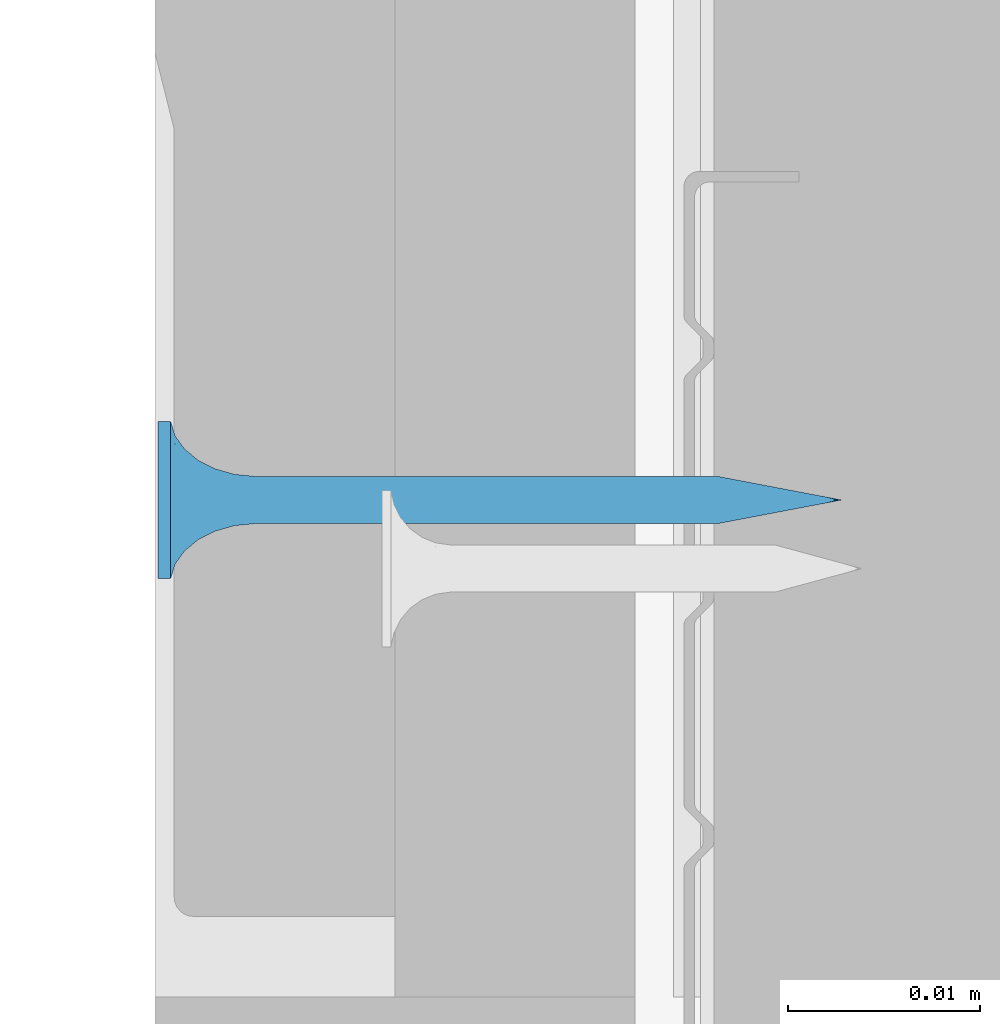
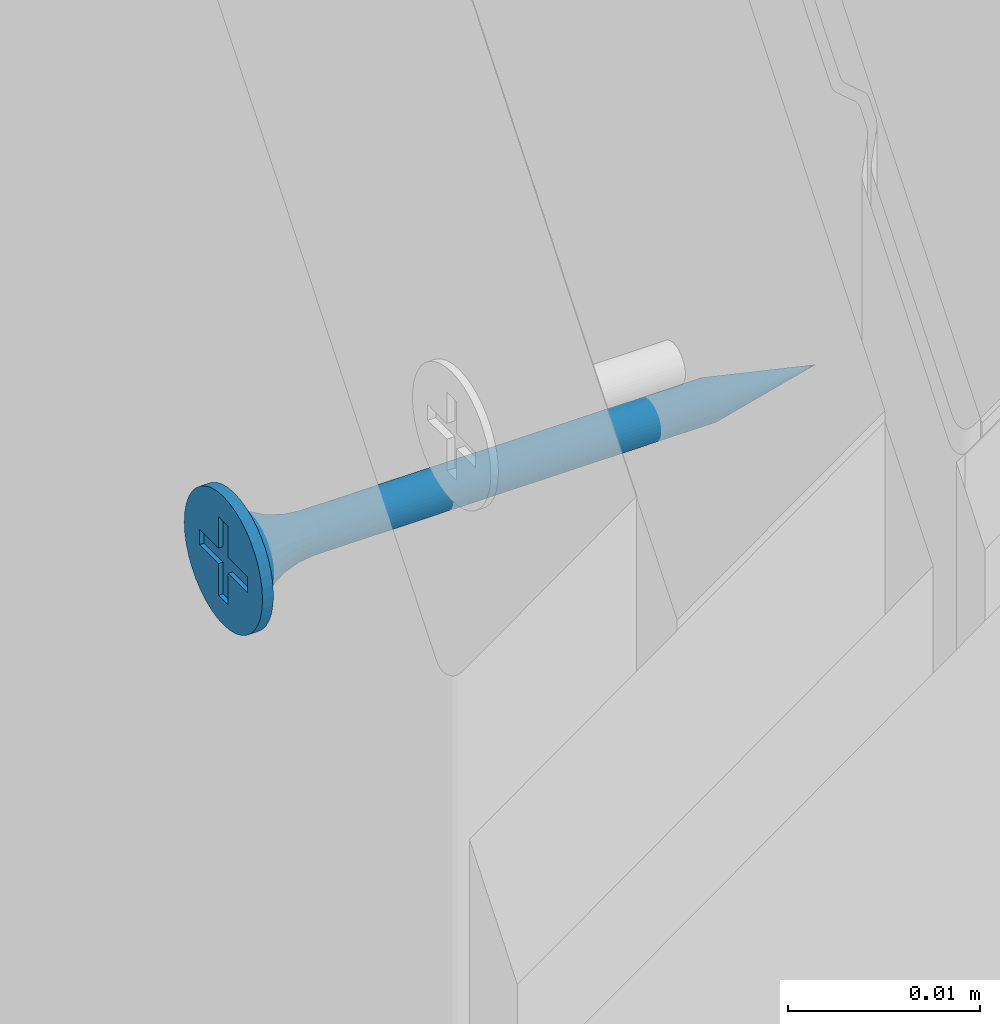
# One storey, part 61 of 92: 1 wall.
"""IFC2X3 building model written with IfcOpenShell, lengths in millimetres."""

import ifcopenshell
import ifcopenshell.guid

model = None  # the IFC model being written
_history = None  # IfcOwnerHistory: only IFC2X3 demands one
_inside = {}  # id of a spatial element -> (the spatial element, [elements in it])
_under = {}  # id of a project, library or spatial element -> (it, [spatial elements below it])
_declared = {}  # id of a project -> (the project, [libraries it declares])
_typed = {}  # id of a type object -> (the type object, [elements of that type])
_made_of = {}  # id of a material, layer set ... -> (it, [elements and type objects made of it])


def new_model(schema):
    """Start an empty IFC model of exactly this schema.

    Asked for "IFC4X3", IfcOpenShell would pick the latest addendum, in which some entities
    have other attributes; the version numbers below select the first issue.
    IFC2X3 requires an IfcOwnerHistory on every rooted entity: one is made here for all.
    """
    global model, _history
    if schema == "IFC4X3":
        model = ifcopenshell.file(schema_version=(4, 3, 0, 0))
    else:
        model = ifcopenshell.file(schema=schema)
    _inside.clear()
    _under.clear()
    _declared.clear()
    _typed.clear()
    _made_of.clear()
    _history = None
    if model.schema == "IFC2X3":
        org = make("IfcOrganization", Name="unknown")
        user = make(
            "IfcPersonAndOrganization",
            ThePerson=make("IfcPerson", FamilyName="unknown"),
            TheOrganization=org,
        )
        app = make(
            "IfcApplication",
            ApplicationDeveloper=org,
            Version="unknown",
            ApplicationFullName="unknown",
            ApplicationIdentifier="unknown",
        )
        _history = make(
            "IfcOwnerHistory",
            OwningUser=user,
            OwningApplication=app,
            ChangeAction="ADDED",
            CreationDate=0,
        )
    return model


def make(cls, **values):
    """One entity of the class cls with the attributes given. An attribute that is None is left unset."""
    return model.create_entity(
        cls, **{name: value for name, value in values.items() if value is not None}
    )


def rooted(cls, **values):
    """An entity with a GlobalId (a new one), such as an element, a storey or a relation."""
    return make(cls, GlobalId=ifcopenshell.guid.new(), OwnerHistory=_history, **values)


def si_unit(unit_type, name, prefix=None):
    """IfcSIUnit, for example si_unit("LENGTHUNIT", "METRE", prefix="MILLI")."""
    return make("IfcSIUnit", UnitType=unit_type, Prefix=prefix, Name=name)


def assignment(units):
    """IfcUnitAssignment: the units of a project."""
    return None if units is None else make("IfcUnitAssignment", Units=units)


def point(xyz):
    """IfcCartesianPoint."""
    return None if xyz is None else make("IfcCartesianPoint", Coordinates=xyz)


def direction(xyz):
    """IfcDirection."""
    return None if xyz is None else make("IfcDirection", DirectionRatios=xyz)


def frame(location, z_axis=None, x_axis=None):
    """IfcAxis2Placement3D, a coordinate frame: its origin and axes. An axis left out is left unset."""
    return make(
        "IfcAxis2Placement3D",
        Location=point(location),
        Axis=direction(z_axis),
        RefDirection=direction(x_axis),
    )


def origin_with_axes():
    """The frame at (0, 0, 0) with the z axis (0, 0, 1) and the x axis (1, 0, 0) written out."""
    return frame((0.0, 0.0, 0.0), z_axis=(0.0, 0.0, 1.0), x_axis=(1.0, 0.0, 0.0))


def place(relative_to, where):
    """IfcLocalPlacement: puts the frame where relative to a parent placement (None: the world)."""
    return make(
        "IfcLocalPlacement", PlacementRelTo=relative_to, RelativePlacement=where
    )


def context(
    kind, dimensions, precision=None, world=None, true_north=None, identifier=None
):
    """IfcGeometricRepresentationContext, for example the 3D "Model" context."""
    return make(
        "IfcGeometricRepresentationContext",
        ContextIdentifier=identifier,
        ContextType=kind,
        CoordinateSpaceDimension=dimensions,
        Precision=precision,
        WorldCoordinateSystem=world,
        TrueNorth=true_north,
    )


def subcontext(parent, identifier, kind, view, scale=None):
    """IfcGeometricRepresentationSubContext, for example "Body" below "Model"."""
    return make(
        "IfcGeometricRepresentationSubContext",
        ContextIdentifier=identifier,
        ContextType=kind,
        ParentContext=parent,
        TargetScale=scale,
        TargetView=view,
    )


def project(units=None, contexts=None):
    """IfcProject with its units and contexts."""
    return rooted(
        "IfcProject",
        Name="project",
        RepresentationContexts=contexts,
        UnitsInContext=assignment(units),
    )


def spatial(cls, under=None, at=None, **own):
    """A site, building, storey or space (cls), placed at a placement, below another one or the project."""
    s = rooted(cls, ObjectPlacement=at, **own)
    if under is not None:
        _under.setdefault(under.id(), (under, []))[1].append(s)
    return s


def faces_of(points, faces, orient=None, outer=None):
    """IfcFace entities. A face is a list of loops; a loop is a list of indices into points, from 0.

    orient and outer hold one flag for each loop. By default every Orientation is true, the
    first loop of a face is its IfcFaceOuterBound and the others are IfcFaceBound.
    """
    made = []
    for i, loops in enumerate(faces):
        bounds = []
        for j, loop in enumerate(loops):
            is_outer = j == 0 if outer is None else outer[i][j]
            bounds.append(
                make(
                    "IfcFaceOuterBound" if is_outer else "IfcFaceBound",
                    Bound=make("IfcPolyLoop", Polygon=[points[k] for k in loop]),
                    Orientation=True if orient is None else orient[i][j],
                )
            )
        made.append(make("IfcFace", Bounds=bounds))
    return made


def faceted_brep(points, faces, orient=None, outer=None, voids=None):
    """IfcFacetedBrep: a solid bounded by flat faces; with voids (closed shells), ...WithVoids."""
    shared = [point(p) for p in points]
    hull = make("IfcClosedShell", CfsFaces=faces_of(shared, faces, orient, outer))
    if voids is None:
        return make("IfcFacetedBrep", Outer=hull)
    return make(
        "IfcFacetedBrepWithVoids",
        Outer=hull,
        Voids=[
            make(cls, CfsFaces=faces_of(shared, fs, o, b)) for cls, fs, o, b in voids
        ],
    )


def shape(context_of_items, identifier, shape_type, items):
    """IfcShapeRepresentation: the items that make up one representation, for example the "Body"."""
    return make(
        "IfcShapeRepresentation",
        ContextOfItems=context_of_items,
        RepresentationIdentifier=identifier,
        RepresentationType=shape_type,
        Items=items,
    )


def material(Name=None, Category=None):
    """IfcMaterial."""
    return make("IfcMaterial", Name=Name, Category=Category)


def made_of(thing, what):
    """Note that an element or type object is made of a material, layer set ...; save() writes the relation."""
    if what is not None:
        _made_of.setdefault(what.id(), (what, []))[1].append(thing)
    return thing


def type_object(cls, material=None, **own):
    """A type object (cls), such as IfcWallType, which elements share."""
    return made_of(rooted(cls, **own), material)


def element(
    cls,
    number,
    at=None,
    inside=None,
    cuts=None,
    type_object=None,
    material=None,
    context=None,
    identifier="Body",
    shape_type=None,
    held_by="IfcProductDefinitionShape",
    body=None,
    shapes=None,
    **own,
):
    """One element of the class cls, such as IfcWall. Its Tag is "e" and its number.

    at: its placement. inside: the storey or other place that contains it. cuts: it is an
    opening in that element (IfcRelVoidsElement). A single representation is given by context,
    identifier, shape_type and body (its items); several are given by shapes. held_by: the class
    of the entity that holds the representations. save() writes the other relations.
    """
    e = rooted(cls, Tag="e%d" % number, ObjectPlacement=at, **own)
    if body is not None:
        shapes = [shape(context, identifier, shape_type, body)]
    if shapes is not None:
        e.Representation = make(held_by, Representations=shapes)
    if inside is not None:
        _inside.setdefault(inside.id(), (inside, []))[1].append(e)
    if cuts is not None:
        rooted(
            "IfcRelVoidsElement", RelatingBuildingElement=cuts, RelatedOpeningElement=e
        )
    if type_object is not None:
        _typed.setdefault(type_object.id(), (type_object, []))[1].append(e)
    return made_of(e, material)


def aggregate(whole, parts):
    """IfcRelAggregates: a whole, such as a stair, and the parts it consists of."""
    return rooted("IfcRelAggregates", RelatingObject=whole, RelatedObjects=parts)


def save(model, path):
    """Write the relations noted so far, then the file.

    IfcRelAggregates (storeys below a building ...), IfcRelContainedInSpatialStructure (elements
    in a storey), IfcRelDefinesByType, IfcRelAssociatesMaterial and IfcRelDeclares: one each for
    every whole, place, type object, material and project.
    """
    for whole, parts in _under.values():
        aggregate(whole, parts)
    for where, things in _inside.values():
        rooted(
            "IfcRelContainedInSpatialStructure",
            RelatedElements=things,
            RelatingStructure=where,
        )
    for kind, things in _typed.values():
        rooted("IfcRelDefinesByType", RelatedObjects=things, RelatingType=kind)
    for what, things in _made_of.values():
        rooted("IfcRelAssociatesMaterial", RelatedObjects=things, RelatingMaterial=what)
    for by, libraries in _declared.values():
        rooted("IfcRelDeclares", RelatingContext=by, RelatedDefinitions=libraries)
    model.write(path)


model = new_model("IFC2X3")

# Units and contexts
model_context = context("Model", 3, world=origin_with_axes())
body_context = subcontext(model_context, "Body", "Model", "MODEL_VIEW")
ifc_project = project(units=[si_unit("LENGTHUNIT", "METRE", prefix="MILLI"), si_unit("AREAUNIT", "SQUARE_METRE"), si_unit("VOLUMEUNIT", "CUBIC_METRE")], contexts=[model_context])

# Site, building, storey
site_placement = place(None, origin_with_axes())
site = spatial("IfcSite", under=ifc_project, at=site_placement, Name="Default Site", CompositionType="ELEMENT")
building_placement = place(site_placement, origin_with_axes())
building = spatial("IfcBuilding", under=site, at=building_placement, Name="Default Building", CompositionType="ELEMENT")
storey_placement = place(building_placement, origin_with_axes())
storey = spatial("IfcBuildingStorey", under=building, at=storey_placement, Name="Default Building Storey", CompositionType="ELEMENT", Elevation=0.0)

# Wall
ifc_material = material(Name="Undefined2")
wall_type = type_object("IfcWallType", Name="Wkręt RIGIPS TN 35#37", PredefinedType="NOTDEFINED")
wall_placement = place(storey_placement, frame((4833.413128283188, 6.443031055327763, 1136.1937980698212), z_axis=(0.0, 0.0, 1.0), x_axis=(6.938893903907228e-17, -1.0, 0.0)))
element("IfcWall", 1, at=wall_placement, inside=storey, type_object=wall_type, material=ifc_material, Name="Wkręt RIGIPS TN 35", context=body_context, shape_type="Brep", body=[
    faceted_brep([(-141.48753293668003, -4832.598052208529, 555.1619773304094), (-141.48753293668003, -4833.259714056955, 555.1619773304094), (-141.5377465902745, -4833.259714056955, 555.8000000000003), (-141.5377465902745, -4832.598052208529, 555.8000000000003), (-141.33812900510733, -4832.598052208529, 554.539664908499), (-141.33812900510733, -4833.259714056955, 554.539664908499), (-141.09321328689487, -4832.598052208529, 553.948386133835), (-141.09321328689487, -4833.259714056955, 553.948386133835), (-140.75881656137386, -4832.598052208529, 553.4027002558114), (-140.75881656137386, -4833.259714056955, 553.4027002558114), (-140.34317265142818, -4833.259714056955, 552.9160436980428), (-140.45417279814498, -4832.598052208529, 553.031490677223), (-139.8565160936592, -4833.259714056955, 552.5003997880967), (-140.1080097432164, -4832.598052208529, 552.6986613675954), (-139.72512626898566, -4832.598052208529, 552.4088260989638), (-139.31083021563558, -4833.259714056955, 552.1660030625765), (-139.31083021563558, -4832.598052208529, 552.1660030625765), (-138.71955144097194, -4833.259714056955, 551.9210873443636), (-138.87086516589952, -4832.598052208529, 551.9735585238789), (-138.41133029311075, -4832.598052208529, 551.8341602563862), (-138.0972390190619, -4833.259714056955, 551.7716834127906), (-137.9385961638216, -4832.598052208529, 551.74974052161), (-137.45921634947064, -4833.259714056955, 551.7214697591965), (-137.45921634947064, -4832.598052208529, 551.7214697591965), (-136.82119367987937, -4832.598052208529, 551.7716834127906), (-136.82119367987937, -4833.259714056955, 551.7716834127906), (-136.19888125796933, -4832.598052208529, 551.9210873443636), (-136.19888125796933, -4833.259714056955, 551.9210873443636), (-135.6076024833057, -4832.598052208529, 552.1660030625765), (-135.6076024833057, -4833.259714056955, 552.1660030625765), (-135.06191660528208, -4832.598052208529, 552.5003997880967), (-135.06191660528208, -4833.259714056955, 552.5003997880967), (-134.57526004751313, -4832.598052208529, 552.9160436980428), (-134.57526004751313, -4833.259714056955, 552.9160436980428), (-134.1596161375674, -4832.598052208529, 553.4027002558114), (-134.1596161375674, -4833.259714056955, 553.4027002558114), (-133.8252194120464, -4832.598052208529, 553.948386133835), (-133.8252194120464, -4833.259714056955, 553.948386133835), (-133.58030369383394, -4832.598052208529, 554.539664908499), (-133.58030369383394, -4833.259714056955, 554.539664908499), (-133.3806861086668, -4833.259714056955, 555.8000000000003), (-133.3806861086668, -4832.598052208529, 555.8000000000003), (-133.43089976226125, -4832.598052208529, 556.4380226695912), (-133.43089976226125, -4833.259714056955, 556.4380226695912), (-133.43089976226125, -4833.259714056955, 555.1619773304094), (-133.43089976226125, -4832.598052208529, 555.1619773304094), (-133.58030369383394, -4832.598052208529, 557.0603350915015), (-133.58030369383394, -4833.259714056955, 557.0603350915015), (-133.8252194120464, -4832.598052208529, 557.6516138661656), (-133.8252194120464, -4833.259714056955, 557.6516138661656), (-134.1596161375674, -4832.598052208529, 558.1972997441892), (-134.1596161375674, -4833.259714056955, 558.1972997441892), (-134.57526004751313, -4832.598052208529, 558.6839563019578), (-134.57526004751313, -4833.259714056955, 558.6839563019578), (-135.06191660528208, -4832.598052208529, 559.0996002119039), (-135.06191660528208, -4833.259714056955, 559.0996002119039), (-135.6076024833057, -4832.598052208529, 559.4339969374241), (-135.6076024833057, -4833.259714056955, 559.4339969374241), (-136.19888125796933, -4832.598052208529, 559.678912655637), (-136.19888125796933, -4833.259714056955, 559.678912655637), (-136.82119367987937, -4832.598052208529, 559.82831658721), (-136.82119367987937, -4833.259714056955, 559.82831658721), (-137.45921634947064, -4832.598052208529, 559.8785302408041), (-137.45921634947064, -4833.259714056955, 559.8785302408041), (-138.0972390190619, -4832.598052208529, 559.82831658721), (-138.0972390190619, -4833.259714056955, 559.82831658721), (-138.71955144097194, -4832.598052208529, 559.678912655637), (-138.71955144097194, -4833.259714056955, 559.678912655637), (-139.31083021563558, -4832.598052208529, 559.4339969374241), (-139.31083021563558, -4833.259714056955, 559.4339969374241), (-139.8565160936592, -4832.598052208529, 559.0996002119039), (-139.8565160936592, -4833.259714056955, 559.0996002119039), (-140.34317265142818, -4832.598052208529, 558.6839563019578), (-140.34317265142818, -4833.259714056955, 558.6839563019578), (-140.75881656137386, -4832.598052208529, 558.1972997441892), (-140.75881656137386, -4833.259714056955, 558.1972997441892), (-141.09321328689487, -4832.598052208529, 557.6516138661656), (-141.09321328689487, -4833.259714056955, 557.6516138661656), (-141.33812900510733, -4832.598052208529, 557.0603350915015), (-141.33812900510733, -4833.259714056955, 557.0603350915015), (-141.48753293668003, -4832.598052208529, 556.4380226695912), (-141.48753293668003, -4833.259714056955, 556.4380226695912), (-137.65172779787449, -4828.206294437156, 554.5845305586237), (-137.45921634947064, -4828.206294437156, 554.5693795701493), (-137.8060615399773, -4829.281368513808, 554.505556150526), (-137.45921634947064, -4829.281368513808, 554.4598930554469), (-137.83949898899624, -4828.206294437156, 554.6296104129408), (-138.12926982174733, -4829.281368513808, 554.6394333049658), (-138.01790634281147, -4828.206294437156, 554.7035091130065), (-138.1825568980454, -4828.206294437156, 554.8044072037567), (-138.40681506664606, -4829.281368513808, 554.8524012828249), (-138.3293964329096, -4828.206294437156, 554.9298199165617), (-138.45480914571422, -4828.206294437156, 555.0766594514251), (-138.6197830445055, -4829.281368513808, 555.1299465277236), (-138.5557072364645, -4828.206294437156, 555.2413100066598), (-138.753660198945, -4829.281368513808, 555.453154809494), (-138.62960593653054, -4828.206294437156, 555.4197173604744), (-138.67468579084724, -4828.206294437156, 555.6074885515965), (-138.79932329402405, -4829.281368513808, 555.7999999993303), (-138.68983677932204, -4828.206294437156, 555.8000000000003), (-138.67468579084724, -4828.206294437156, 555.9925114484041), (-138.753660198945, -4829.281368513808, 556.1468451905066), (-138.62960593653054, -4828.206294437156, 556.1802826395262), (-138.6197830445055, -4829.281368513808, 556.470053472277), (-138.5557072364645, -4828.206294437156, 556.3586899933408), (-138.45480914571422, -4828.206294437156, 556.5233405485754), (-138.40681506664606, -4829.281368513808, 556.7475987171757), (-138.3293964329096, -4828.206294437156, 556.6701800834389), (-138.1825568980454, -4828.206294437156, 556.7955927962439), (-138.12926982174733, -4829.281368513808, 556.9605666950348), (-138.01790634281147, -4828.206294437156, 556.8964908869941), (-137.8060615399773, -4829.281368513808, 557.0944438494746), (-137.83949898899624, -4828.206294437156, 556.9703895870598), (-137.65172779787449, -4828.206294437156, 557.0154694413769), (-137.45921634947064, -4829.281368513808, 557.1401069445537), (-137.45921634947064, -4828.206294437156, 557.0306204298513), (-137.26670490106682, -4828.206294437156, 557.0154694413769), (-137.11237115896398, -4829.281368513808, 557.0944438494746), (-137.07893370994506, -4828.206294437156, 556.9703895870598), (-136.78916287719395, -4829.281368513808, 556.9605666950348), (-136.9005263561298, -4828.206294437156, 556.8964908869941), (-136.7358758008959, -4828.206294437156, 556.7955927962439), (-136.5116176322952, -4829.281368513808, 556.7475987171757), (-136.58903626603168, -4828.206294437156, 556.6701800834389), (-136.46362355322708, -4828.206294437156, 556.5233405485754), (-136.2986496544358, -4829.281368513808, 556.470053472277), (-136.36272546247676, -4828.206294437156, 556.3586899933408), (-136.16477249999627, -4829.281368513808, 556.1468451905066), (-136.28882676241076, -4828.206294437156, 556.1802826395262), (-136.24374690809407, -4828.206294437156, 555.9925114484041), (-136.11910940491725, -4829.281368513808, 555.7999999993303), (-136.22859591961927, -4828.206294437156, 555.8000000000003), (-136.24374690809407, -4828.206294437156, 555.6074885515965), (-136.16477249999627, -4829.281368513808, 555.453154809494), (-136.28882676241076, -4828.206294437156, 555.4197173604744), (-136.2986496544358, -4829.281368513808, 555.1299465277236), (-136.36272546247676, -4828.206294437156, 555.2413100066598), (-136.46362355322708, -4828.206294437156, 555.0766594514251), (-136.5116176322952, -4829.281368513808, 554.8524012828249), (-136.58903626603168, -4828.206294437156, 554.9298199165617), (-136.7358758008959, -4828.206294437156, 554.8044072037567), (-136.78916287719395, -4829.281368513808, 554.6394333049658), (-136.9005263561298, -4828.206294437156, 554.7035091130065), (-137.11237115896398, -4829.281368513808, 554.505556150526), (-137.07893370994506, -4828.206294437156, 554.6296104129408), (-137.26670490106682, -4828.206294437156, 554.5845305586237), (-137.45921634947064, -4830.288222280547, 554.1737111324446), (-137.88013087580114, -4830.288222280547, 554.2291255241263), (-138.2723607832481, -4830.288222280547, 554.3915925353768), (-138.60917621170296, -4830.288222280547, 554.650040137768), (-138.8676238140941, -4830.288222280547, 554.9868555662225), (-139.03009082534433, -4830.288222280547, 555.3790854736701), (-139.08550521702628, -4830.288222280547, 555.7999999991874), (-139.03009082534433, -4830.288222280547, 556.2209145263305), (-138.8676238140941, -4830.288222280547, 556.6131444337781), (-138.60917621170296, -4830.288222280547, 556.9499598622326), (-138.2723607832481, -4830.288222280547, 557.2084074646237), (-137.88013087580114, -4830.288222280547, 557.3708744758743), (-137.45921634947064, -4830.288222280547, 557.426288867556), (-137.03830182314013, -4830.288222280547, 557.3708744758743), (-136.64607191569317, -4830.288222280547, 557.2084074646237), (-136.30925648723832, -4830.288222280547, 556.9499598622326), (-136.05080888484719, -4830.288222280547, 556.6131444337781), (-135.88834187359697, -4830.288222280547, 556.2209145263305), (-135.832927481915, -4830.288222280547, 555.7999999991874), (-135.88834187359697, -4830.288222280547, 555.3790854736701), (-136.05080888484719, -4830.288222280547, 554.9868555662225), (-136.30925648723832, -4830.288222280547, 554.650040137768), (-136.64607191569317, -4830.288222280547, 554.3915925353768), (-137.03830182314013, -4830.288222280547, 554.2291255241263), (-137.45921634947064, -4831.168773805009, 553.7273430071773), (-137.99565943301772, -4831.168773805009, 553.7979670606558), (-138.49554484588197, -4831.168773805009, 554.0050264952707), (-138.92480608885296, -4831.168773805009, 554.3344102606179), (-139.25418985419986, -4831.168773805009, 554.763671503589), (-139.46124928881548, -4831.168773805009, 555.2635569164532), (-139.53187334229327, -4831.168773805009, 555.799999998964), (-139.46124928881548, -4831.168773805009, 556.3364430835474), (-139.25418985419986, -4831.168773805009, 556.8363284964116), (-138.92480608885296, -4831.168773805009, 557.2655897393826), (-138.49554484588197, -4831.168773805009, 557.5949735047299), (-137.99565943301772, -4831.168773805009, 557.8020329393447), (-137.45921634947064, -4831.168773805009, 557.8726569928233), (-136.92277326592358, -4831.168773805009, 557.8020329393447), (-136.42288785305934, -4831.168773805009, 557.5949735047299), (-135.9936266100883, -4831.168773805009, 557.2655897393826), (-135.6642428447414, -4831.168773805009, 556.8363284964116), (-135.45718341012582, -4831.168773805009, 556.3364430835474), (-135.386559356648, -4831.168773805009, 555.799999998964), (-135.45718341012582, -4831.168773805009, 555.2635569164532), (-135.6642428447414, -4831.168773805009, 554.763671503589), (-135.9936266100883, -4831.168773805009, 554.3344102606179), (-136.42288785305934, -4831.168773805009, 554.0050264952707), (-136.92277326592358, -4831.168773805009, 553.7979670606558), (-137.45921634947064, -4831.872222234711, 553.1465392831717), (-138.14598252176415, -4831.872222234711, 553.2369539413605), (-138.78594670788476, -4831.872222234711, 553.5020355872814), (-139.33549641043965, -4831.872222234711, 553.9237199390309), (-139.75718076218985, -4831.872222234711, 554.4732696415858), (-140.02226240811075, -4831.872222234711, 555.1132338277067), (-140.11267706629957, -4831.872222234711, 555.7999999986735), (-140.02226240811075, -4831.872222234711, 556.4867661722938), (-139.75718076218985, -4831.872222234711, 557.1267303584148), (-139.33549641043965, -4831.872222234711, 557.6762800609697), (-138.78594670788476, -4831.872222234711, 558.0979644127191), (-138.14598252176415, -4831.872222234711, 558.3630460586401), (-137.45921634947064, -4831.872222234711, 558.4534607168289), (-136.77245017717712, -4831.872222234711, 558.3630460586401), (-136.13248599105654, -4831.872222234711, 558.0979644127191), (-135.58293628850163, -4831.872222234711, 557.6762800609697), (-135.16125193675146, -4831.872222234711, 557.1267303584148), (-134.89617029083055, -4831.872222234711, 556.4867661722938), (-134.8057556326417, -4831.872222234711, 555.7999999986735), (-134.89617029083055, -4831.872222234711, 555.1132338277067), (-135.16125193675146, -4831.872222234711, 554.4732696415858), (-135.58293628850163, -4831.872222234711, 553.9237199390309), (-136.13248599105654, -4831.872222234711, 553.5020355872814), (-136.77245017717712, -4831.872222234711, 553.2369539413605), (-137.45921634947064, -4832.357990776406, 552.4648055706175), (-138.3224281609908, -4832.357990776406, 552.5784495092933), (-139.12681356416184, -4832.357990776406, 552.9116369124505), (-139.8175549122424, -4832.357990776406, 553.4416614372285), (-140.34757943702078, -4832.357990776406, 554.1324027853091), (-140.680766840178, -4832.357990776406, 554.9367881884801), (-140.79441077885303, -4832.357990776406, 555.7999999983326), (-140.680766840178, -4832.357990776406, 556.6632118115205), (-140.34757943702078, -4832.357990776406, 557.4675972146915), (-139.8175549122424, -4832.357990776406, 558.1583385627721), (-139.12681356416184, -4832.357990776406, 558.6883630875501), (-138.3224281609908, -4832.357990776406, 559.0215504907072), (-137.45921634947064, -4832.357990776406, 559.1351944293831), (-136.5960045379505, -4832.357990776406, 559.0215504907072), (-135.79161913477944, -4832.357990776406, 558.6883630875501), (-135.10087778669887, -4832.357990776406, 558.1583385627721), (-134.5708532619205, -4832.357990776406, 557.4675972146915), (-134.23766585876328, -4832.357990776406, 556.6632118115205), (-134.12402192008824, -4832.357990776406, 555.7999999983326), (-134.23766585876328, -4832.357990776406, 554.9367881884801), (-134.5708532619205, -4832.357990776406, 554.1324027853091), (-135.10087778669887, -4832.357990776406, 553.4416614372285), (-135.79161913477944, -4832.357990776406, 552.9116369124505), (-136.5960045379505, -4832.357990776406, 552.5784495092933), (-138.67468579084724, -4804.0937578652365, 555.6074885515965), (-138.68983677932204, -4804.0937578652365, 555.8000000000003), (-138.62960593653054, -4804.0937578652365, 555.4197173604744), (-138.5557072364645, -4804.0937578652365, 555.2413100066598), (-138.45480914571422, -4804.0937578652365, 555.0766594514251), (-138.3293964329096, -4804.0937578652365, 554.9298199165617), (-138.1825568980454, -4804.0937578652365, 554.8044072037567), (-138.01790634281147, -4804.0937578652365, 554.7035091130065), (-137.83949898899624, -4804.0937578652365, 554.6296104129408), (-137.65172779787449, -4804.0937578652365, 554.5845305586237), (-137.45921634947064, -4804.0937578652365, 554.5693795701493), (-137.26670490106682, -4804.0937578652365, 554.5845305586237), (-137.07893370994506, -4804.0937578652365, 554.6296104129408), (-136.9005263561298, -4804.0937578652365, 554.7035091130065), (-136.7358758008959, -4804.0937578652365, 554.8044072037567), (-136.58903626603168, -4804.0937578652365, 554.9298199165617), (-136.46362355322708, -4804.0937578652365, 555.0766594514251), (-136.36272546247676, -4804.0937578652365, 555.2413100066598), (-136.28882676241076, -4804.0937578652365, 555.4197173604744), (-136.22859591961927, -4804.0937578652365, 555.8000000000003), (-136.24374690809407, -4804.0937578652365, 555.9925114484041), (-136.24374690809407, -4804.0937578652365, 555.6074885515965), (-136.28882676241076, -4804.0937578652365, 556.1802826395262), (-136.36272546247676, -4804.0937578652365, 556.3586899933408), (-136.46362355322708, -4804.0937578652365, 556.5233405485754), (-136.58903626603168, -4804.0937578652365, 556.6701800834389), (-136.7358758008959, -4804.0937578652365, 556.7955927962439), (-136.9005263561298, -4804.0937578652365, 556.8964908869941), (-137.07893370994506, -4804.0937578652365, 556.9703895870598), (-137.26670490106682, -4804.0937578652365, 557.0154694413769), (-137.45921634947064, -4804.0937578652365, 557.0306204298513), (-137.65172779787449, -4804.0937578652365, 557.0154694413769), (-137.83949898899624, -4804.0937578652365, 556.9703895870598), (-138.01790634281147, -4804.0937578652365, 556.8964908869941), (-138.1825568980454, -4804.0937578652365, 556.7955927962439), (-138.3293964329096, -4804.0937578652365, 556.6701800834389), (-138.45480914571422, -4804.0937578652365, 556.5233405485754), (-138.5557072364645, -4804.0937578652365, 556.3586899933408), (-138.62960593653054, -4804.0937578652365, 556.1802826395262), (-138.67468579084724, -4804.0937578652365, 555.9925114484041), (-137.45921634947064, -4797.627062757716, 555.8000000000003), (-139.95921629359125, -4833.259714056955, 555.2999999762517), (-139.95921629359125, -4833.259714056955, 556.3000000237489), (-137.95921637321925, -4833.259714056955, 556.3000000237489), (-137.95921637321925, -4833.259714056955, 558.2999999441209), (-136.95921632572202, -4833.259714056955, 558.2999999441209), (-136.95921632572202, -4833.259714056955, 556.3000000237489), (-134.95921640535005, -4833.259714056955, 556.3000000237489), (-134.95921640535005, -4833.259714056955, 555.2999999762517), (-136.95921632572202, -4833.259714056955, 555.2999999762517), (-136.95921632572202, -4833.259714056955, 553.3000000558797), (-137.95921637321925, -4833.259714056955, 553.3000000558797), (-137.95921637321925, -4833.259714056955, 555.2999999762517), (-136.95921632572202, -4832.988378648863, 558.2999999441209), (-137.95921637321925, -4832.988378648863, 558.2999999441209), (-137.95921637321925, -4832.988378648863, 556.3000000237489), (-139.95921629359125, -4832.988378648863, 556.3000000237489), (-139.95921629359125, -4832.988378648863, 555.2999999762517), (-137.95921637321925, -4832.988378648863, 555.2999999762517), (-137.95921637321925, -4832.988378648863, 553.3000000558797), (-136.95921632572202, -4832.988378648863, 553.3000000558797), (-136.95921632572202, -4832.988378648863, 555.2999999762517), (-134.95921640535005, -4832.988378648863, 555.2999999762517), (-134.95921640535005, -4832.988378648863, 556.3000000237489), (-136.95921632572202, -4832.988378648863, 556.3000000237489)], [[[0, 1, 2, 3]], [[1, 0, 4, 5]], [[5, 4, 6, 7]], [[8, 9, 7, 6]], [[8, 10, 9]], [[8, 11, 10]], [[12, 11, 13]], [[12, 10, 11]], [[13, 14, 12]], [[14, 15, 12]], [[14, 16, 15]], [[17, 16, 18]], [[17, 15, 16]], [[18, 19, 17]], [[20, 19, 21]], [[20, 17, 19]], [[21, 22, 20]], [[21, 23, 22]], [[24, 25, 22, 23]], [[25, 24, 26, 27]], [[27, 26, 28, 29]], [[30, 31, 29, 28]], [[31, 30, 32, 33]], [[34, 35, 33, 32]], [[35, 34, 36, 37]], [[37, 36, 38, 39]], [[40, 41, 42, 43]], [[44, 45, 41, 40]], [[45, 44, 39, 38]], [[43, 42, 46, 47]], [[47, 46, 48, 49]], [[50, 51, 49, 48]], [[51, 50, 52, 53]], [[54, 55, 53, 52]], [[55, 54, 56, 57]], [[57, 56, 58, 59]], [[60, 61, 59, 58]], [[61, 60, 62, 63]], [[64, 65, 63, 62]], [[65, 64, 66, 67]], [[67, 66, 68, 69]], [[70, 71, 69, 68]], [[71, 70, 72, 73]], [[74, 75, 73, 72]], [[75, 74, 76, 77]], [[77, 76, 78, 79]], [[80, 81, 79, 78]], [[81, 80, 3, 2]], [[82, 83, 84]], [[83, 85, 84]], [[84, 86, 82]], [[84, 87, 88, 86]], [[89, 88, 87]], [[87, 90, 89]], [[90, 91, 89]], [[92, 91, 93]], [[91, 90, 93]], [[93, 94, 92]], [[93, 95, 96, 94]], [[97, 96, 95]], [[95, 98, 97]], [[98, 99, 97]], [[100, 99, 101]], [[99, 98, 101]], [[101, 102, 100]], [[101, 103, 104, 102]], [[105, 104, 103]], [[103, 106, 105]], [[106, 107, 105]], [[108, 107, 109]], [[107, 106, 109]], [[109, 110, 108]], [[109, 111, 112, 110]], [[113, 112, 111]], [[111, 114, 113]], [[114, 115, 113]], [[116, 115, 117]], [[115, 114, 117]], [[117, 118, 116]], [[117, 119, 120, 118]], [[121, 120, 119]], [[119, 122, 121]], [[122, 123, 121]], [[124, 123, 125]], [[123, 122, 125]], [[125, 126, 124]], [[125, 127, 128, 126]], [[129, 128, 127]], [[127, 130, 129]], [[130, 131, 129]], [[132, 131, 133]], [[131, 130, 133]], [[133, 134, 132]], [[133, 135, 136, 134]], [[137, 136, 135]], [[135, 138, 137]], [[138, 139, 137]], [[140, 139, 141]], [[139, 138, 141]], [[141, 142, 140]], [[141, 143, 144, 142]], [[145, 144, 143]], [[143, 85, 145]], [[85, 83, 145]], [[146, 147, 84, 85]], [[84, 147, 148, 87]], [[87, 148, 149, 90]], [[90, 149, 150, 93]], [[93, 150, 151, 95]], [[95, 151, 152, 98]], [[98, 152, 153, 101]], [[101, 153, 154, 103]], [[103, 154, 155, 106]], [[106, 155, 156, 109]], [[109, 156, 157, 111]], [[111, 157, 158, 114]], [[114, 158, 159, 117]], [[117, 159, 160, 119]], [[119, 160, 161, 122]], [[122, 161, 162, 125]], [[125, 162, 163, 127]], [[127, 163, 164, 130]], [[130, 164, 165, 133]], [[133, 165, 166, 135]], [[135, 166, 167, 138]], [[138, 167, 168, 141]], [[141, 168, 169, 143]], [[143, 169, 146, 85]], [[170, 171, 147, 146]], [[147, 171, 172, 148]], [[148, 172, 173, 149]], [[149, 173, 174, 150]], [[150, 174, 175, 151]], [[151, 175, 176, 152]], [[152, 176, 177, 153]], [[153, 177, 178, 154]], [[154, 178, 179, 155]], [[155, 179, 180, 156]], [[156, 180, 181, 157]], [[157, 181, 182, 158]], [[158, 182, 183, 159]], [[159, 183, 184, 160]], [[160, 184, 185, 161]], [[161, 185, 186, 162]], [[162, 186, 187, 163]], [[163, 187, 188, 164]], [[164, 188, 189, 165]], [[165, 189, 190, 166]], [[166, 190, 191, 167]], [[167, 191, 192, 168]], [[168, 192, 193, 169]], [[169, 193, 170, 146]], [[194, 195, 171, 170]], [[171, 195, 196, 172]], [[172, 196, 197, 173]], [[173, 197, 198, 174]], [[174, 198, 199, 175]], [[175, 199, 200, 176]], [[176, 200, 201, 177]], [[177, 201, 202, 178]], [[178, 202, 203, 179]], [[179, 203, 204, 180]], [[180, 204, 205, 181]], [[181, 205, 206, 182]], [[182, 206, 207, 183]], [[183, 207, 208, 184]], [[184, 208, 209, 185]], [[185, 209, 210, 186]], [[186, 210, 211, 187]], [[187, 211, 212, 188]], [[188, 212, 213, 189]], [[189, 213, 214, 190]], [[190, 214, 215, 191]], [[191, 215, 216, 192]], [[192, 216, 217, 193]], [[193, 217, 194, 170]], [[21, 19, 218]], [[19, 219, 218]], [[218, 23, 21]], [[218, 219, 195, 194]], [[18, 16, 219]], [[16, 220, 219]], [[219, 19, 18]], [[195, 219, 220, 196]], [[13, 11, 221]], [[14, 13, 220]], [[13, 221, 220]], [[220, 16, 14]], [[196, 220, 221, 197]], [[8, 6, 222]], [[222, 221, 8]], [[221, 11, 8]], [[197, 221, 222, 198]], [[4, 223, 222, 6]], [[198, 222, 223, 199]], [[0, 3, 223]], [[3, 224, 223]], [[223, 4, 0]], [[199, 223, 224, 200]], [[80, 78, 225]], [[225, 224, 80]], [[224, 3, 80]], [[200, 224, 225, 201]], [[78, 76, 226, 225]], [[201, 225, 226, 202]], [[74, 72, 226]], [[72, 227, 226]], [[226, 76, 74]], [[202, 226, 227, 203]], [[70, 68, 228]], [[228, 227, 70]], [[227, 72, 70]], [[203, 227, 228, 204]], [[68, 66, 229, 228]], [[204, 228, 229, 205]], [[64, 62, 229]], [[62, 230, 229]], [[229, 66, 64]], [[205, 229, 230, 206]], [[60, 58, 231]], [[231, 230, 60]], [[230, 62, 60]], [[206, 230, 231, 207]], [[58, 56, 232, 231]], [[207, 231, 232, 208]], [[54, 52, 232]], [[52, 233, 232]], [[232, 56, 54]], [[208, 232, 233, 209]], [[50, 48, 234]], [[234, 233, 50]], [[233, 52, 50]], [[209, 233, 234, 210]], [[48, 46, 235, 234]], [[210, 234, 235, 211]], [[42, 41, 235]], [[41, 236, 235]], [[235, 46, 42]], [[211, 235, 236, 212]], [[45, 38, 237]], [[237, 236, 45]], [[236, 41, 45]], [[212, 236, 237, 213]], [[36, 238, 237, 38]], [[213, 237, 238, 214]], [[34, 32, 238]], [[32, 239, 238]], [[238, 36, 34]], [[214, 238, 239, 215]], [[30, 28, 240]], [[240, 239, 30]], [[239, 32, 30]], [[215, 239, 240, 216]], [[26, 241, 240, 28]], [[216, 240, 241, 217]], [[217, 241, 218, 194]], [[24, 23, 241]], [[23, 218, 241]], [[241, 26, 24]], [[242, 97, 99, 243]], [[97, 242, 244, 96]], [[96, 244, 245, 94]], [[246, 92, 94, 245]], [[92, 246, 247, 91]], [[248, 89, 91, 247]], [[89, 248, 249, 88]], [[88, 249, 250, 86]], [[251, 82, 86, 250]], [[82, 251, 252, 83]], [[253, 145, 83, 252]], [[145, 253, 254, 144]], [[144, 254, 255, 142]], [[256, 140, 142, 255]], [[140, 256, 257, 139]], [[258, 137, 139, 257]], [[137, 258, 259, 136]], [[136, 259, 260, 134]], [[131, 261, 262, 129]], [[132, 263, 261, 131]], [[263, 132, 134, 260]], [[129, 262, 264, 128]], [[128, 264, 265, 126]], [[266, 124, 126, 265]], [[124, 266, 267, 123]], [[268, 121, 123, 267]], [[121, 268, 269, 120]], [[120, 269, 270, 118]], [[271, 116, 118, 270]], [[116, 271, 272, 115]], [[273, 113, 115, 272]], [[113, 273, 274, 112]], [[112, 274, 275, 110]], [[276, 108, 110, 275]], [[108, 276, 277, 107]], [[278, 105, 107, 277]], [[105, 278, 279, 104]], [[104, 279, 280, 102]], [[281, 100, 102, 280]], [[100, 281, 243, 99]], [[282, 244, 242]], [[242, 243, 282]], [[282, 245, 244]], [[282, 247, 246]], [[246, 245, 282]], [[282, 249, 248]], [[248, 247, 282]], [[282, 250, 249]], [[282, 252, 251]], [[251, 250, 282]], [[282, 254, 253]], [[253, 252, 282]], [[282, 255, 254]], [[282, 257, 256]], [[256, 255, 282]], [[282, 259, 258]], [[258, 257, 282]], [[282, 260, 259]], [[282, 261, 263]], [[263, 260, 282]], [[282, 264, 262]], [[262, 261, 282]], [[282, 265, 264]], [[282, 267, 266]], [[266, 265, 282]], [[282, 269, 268]], [[268, 267, 282]], [[282, 270, 269]], [[282, 272, 271]], [[271, 270, 282]], [[282, 274, 273]], [[273, 272, 282]], [[282, 275, 274]], [[282, 277, 276]], [[276, 275, 282]], [[282, 279, 278]], [[278, 277, 282]], [[282, 280, 279]], [[282, 243, 281]], [[281, 280, 282]], [[75, 77, 79, 81, 2, 1, 5, 7, 9, 10, 12, 15, 17, 20, 22, 25, 27, 29, 31, 33, 35, 37, 39, 44, 40, 43, 47, 49, 51, 53, 55, 57, 59, 61, 63, 65, 67, 69, 71, 73], [283, 284, 285, 286, 287, 288, 289, 290, 291, 292, 293, 294]], [[295, 296, 297, 298, 299, 300, 301, 302, 303, 304, 305, 306]], [[303, 291, 290, 304]], [[304, 290, 289, 305]], [[305, 289, 288, 306]], [[306, 288, 287, 295]], [[295, 287, 286, 296]], [[296, 286, 285, 297]], [[297, 285, 284, 298]], [[298, 284, 283, 299]], [[299, 283, 294, 300]], [[300, 294, 293, 301]], [[301, 293, 292, 302]], [[302, 292, 291, 303]]]),
])

save(model, "model.ifc")
